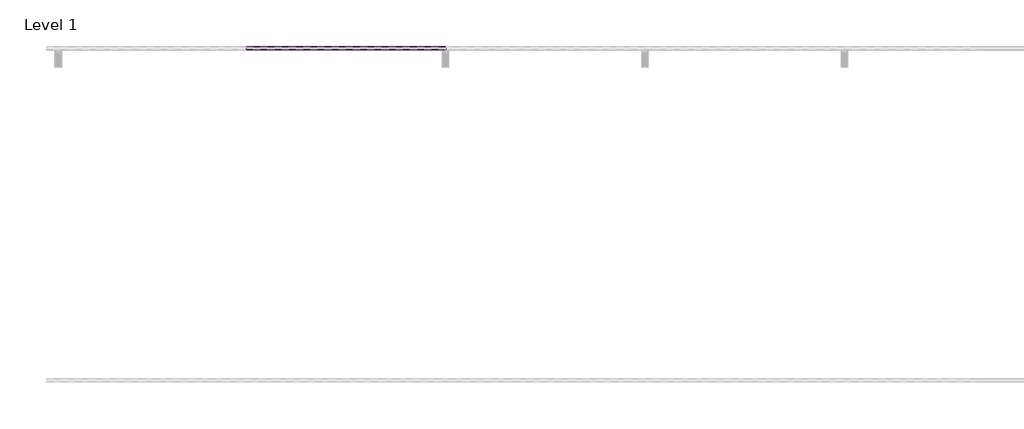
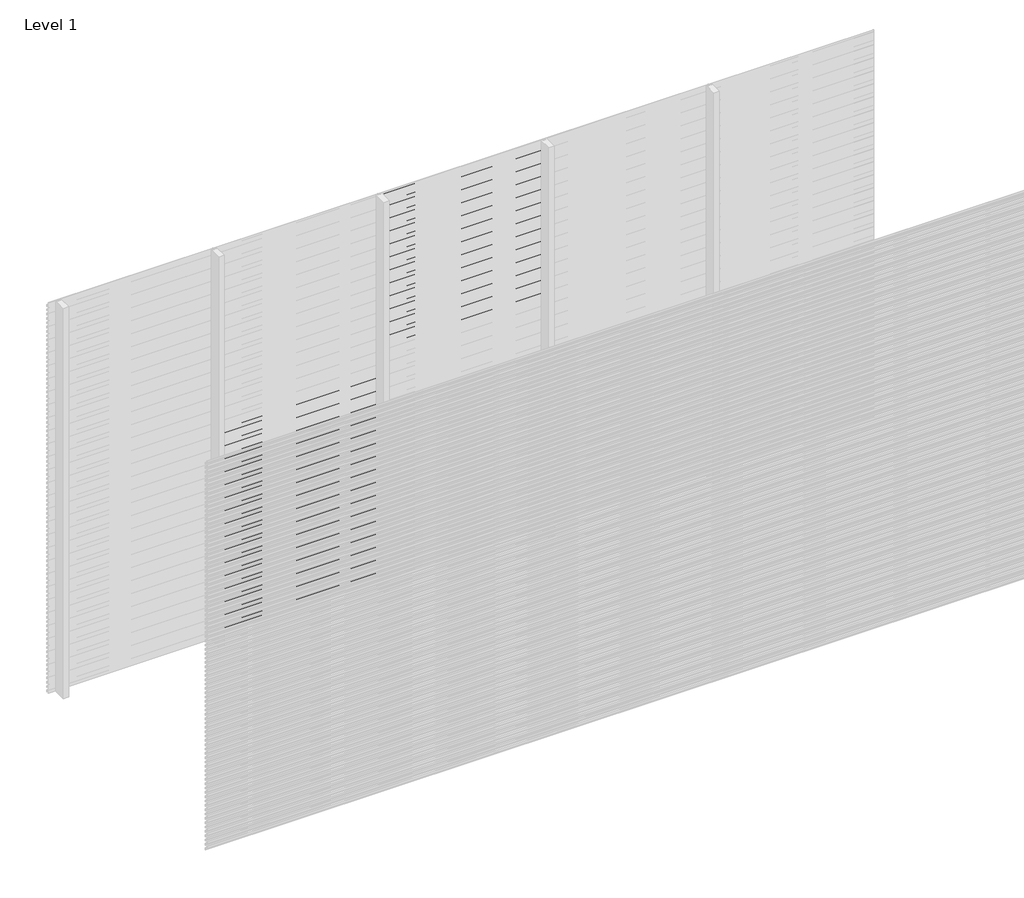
# One storey, part 37 of 507: 84 proxies.
"""IFC4 building model written with IfcOpenShell, lengths in millimetres."""

from ifc_helpers import new_model, si_unit, frame, origin, place, context, project, spatial, polyline, outline, extrude, element, save

model = new_model("IFC4")

# Units and contexts
model_context = context("Model", 3, world=origin())
ifc_project = project(units=[si_unit("LENGTHUNIT", "METRE", prefix="MILLI")], contexts=[model_context])

# Site, building, storey
site = spatial("IfcSite", under=ifc_project)
building = spatial("IfcBuilding", under=site)
storey = spatial("IfcBuildingStorey", under=building, Name="Level 1", Elevation=0.0)

# Proxies
placement = place(None, origin())
element("IfcBuildingElementProxy", 1, Name="Wall Sweeps", at=placement, inside=storey, context=model_context, shape_type="SweptSolid", body=[
    extrude(outline(polyline([(29003.4540136, 1574.4), (29003.4540136, 1560.9), (29002.2040136, 1561.6216933), (29002.2040136, 1573.6782281), (28983.0540136, 1584.7345698), (28983.0540136, 1598.4), (28984.3040136, 1598.4), (28984.3040136, 1585.4562577), (29003.4540136, 1574.4)])), frame((46166.6208099, 0.0, 0.0), z_axis=(1.0, 0.0, 0.0), x_axis=(0.0, 1.0, 0.0)), (0.0, 0.0, 1.0), 1199.9999999),
])
element("IfcBuildingElementProxy", 2, Name="Wall Sweeps", at=placement, inside=storey, context=model_context, shape_type="SweptSolid", body=[
    extrude(outline(polyline([(29003.4540136, 1541.1), (29003.4540136, 1527.6), (29002.2040136, 1528.3216933), (29002.2040136, 1540.3782281), (28983.0540136, 1551.4345698), (28983.0540136, 1565.1), (28984.3040136, 1565.1), (28984.3040136, 1552.1562577), (29003.4540136, 1541.1)])), frame((46166.6208099, 0.0, 0.0), z_axis=(1.0, 0.0, 0.0), x_axis=(0.0, 1.0, 0.0)), (0.0, 0.0, 1.0), 1199.9999999),
])
element("IfcBuildingElementProxy", 3, Name="Wall Sweeps", at=placement, inside=storey, context=model_context, shape_type="SweptSolid", body=[
    extrude(outline(polyline([(29003.4540136, 1507.8), (29003.4540136, 1494.3), (29002.2040136, 1495.0216933), (29002.2040136, 1507.0782281), (28983.0540136, 1518.1345698), (28983.0540136, 1531.8), (28984.3040136, 1531.8), (28984.3040136, 1518.8562577), (29003.4540136, 1507.8)])), frame((46166.6208099, 0.0, 0.0), z_axis=(1.0, 0.0, 0.0), x_axis=(0.0, 1.0, 0.0)), (0.0, 0.0, 1.0), 1199.9999999),
])
element("IfcBuildingElementProxy", 4, Name="Wall Sweeps", at=placement, inside=storey, context=model_context, shape_type="SweptSolid", body=[
    extrude(outline(polyline([(29003.4540136, 1474.5), (29003.4540136, 1461.0), (29002.2040136, 1461.7216933), (29002.2040136, 1473.7782281), (28983.0540136, 1484.8345698), (28983.0540136, 1498.5), (28984.3040136, 1498.5), (28984.3040136, 1485.5562577), (29003.4540136, 1474.5)])), frame((46166.6208099, 0.0, 0.0), z_axis=(1.0, 0.0, 0.0), x_axis=(0.0, 1.0, 0.0)), (0.0, 0.0, 1.0), 1199.9999999),
])
element("IfcBuildingElementProxy", 5, Name="Wall Sweeps", at=placement, inside=storey, context=model_context, shape_type="SweptSolid", body=[
    extrude(outline(polyline([(29003.4540136, 1441.2), (29003.4540136, 1427.7), (29002.2040136, 1428.4216933), (29002.2040136, 1440.4782281), (28983.0540136, 1451.5345698), (28983.0540136, 1465.2), (28984.3040136, 1465.2), (28984.3040136, 1452.2562577), (29003.4540136, 1441.2)])), frame((46166.6208099, 0.0, 0.0), z_axis=(1.0, 0.0, 0.0), x_axis=(0.0, 1.0, 0.0)), (0.0, 0.0, 1.0), 1199.9999999),
])
element("IfcBuildingElementProxy", 6, Name="Wall Sweeps", at=placement, inside=storey, context=model_context, shape_type="SweptSolid", body=[
    extrude(outline(polyline([(29003.4540136, 1407.9), (29003.4540136, 1394.4), (29002.2040136, 1395.1216933), (29002.2040136, 1407.1782281), (28983.0540136, 1418.2345698), (28983.0540136, 1431.9), (28984.3040136, 1431.9), (28984.3040136, 1418.9562577), (29003.4540136, 1407.9)])), frame((46166.6208099, 0.0, 0.0), z_axis=(1.0, 0.0, 0.0), x_axis=(0.0, 1.0, 0.0)), (0.0, 0.0, 1.0), 1199.9999999),
])
element("IfcBuildingElementProxy", 7, Name="Wall Sweeps", at=placement, inside=storey, context=model_context, shape_type="SweptSolid", body=[
    extrude(outline(polyline([(29003.4540136, 1374.6), (29003.4540136, 1361.1), (29002.2040136, 1361.8216933), (29002.2040136, 1373.8782281), (28983.0540136, 1384.9345698), (28983.0540136, 1398.6), (28984.3040136, 1398.6), (28984.3040136, 1385.6562577), (29003.4540136, 1374.6)])), frame((46166.6208099, 0.0, 0.0), z_axis=(1.0, 0.0, 0.0), x_axis=(0.0, 1.0, 0.0)), (0.0, 0.0, 1.0), 1199.9999999),
])
element("IfcBuildingElementProxy", 8, Name="Wall Sweeps", at=placement, inside=storey, context=model_context, shape_type="SweptSolid", body=[
    extrude(outline(polyline([(29003.4540136, 1341.3), (29003.4540136, 1327.8), (29002.2040136, 1328.5216933), (29002.2040136, 1340.5782281), (28983.0540136, 1351.6345698), (28983.0540136, 1365.3), (28984.3040136, 1365.3), (28984.3040136, 1352.3562577), (29003.4540136, 1341.3)])), frame((46166.6208099, 0.0, 0.0), z_axis=(1.0, 0.0, 0.0), x_axis=(0.0, 1.0, 0.0)), (0.0, 0.0, 1.0), 1199.9999999),
])
element("IfcBuildingElementProxy", 9, Name="Wall Sweeps", at=placement, inside=storey, context=model_context, shape_type="SweptSolid", body=[
    extrude(outline(polyline([(29003.4540136, 1308.0), (29003.4540136, 1294.5), (29002.2040136, 1295.2216933), (29002.2040136, 1307.2782281), (28983.0540136, 1318.3345698), (28983.0540136, 1332.0), (28984.3040136, 1332.0), (28984.3040136, 1319.0562577), (29003.4540136, 1308.0)])), frame((46166.6208099, 0.0, 0.0), z_axis=(1.0, 0.0, 0.0), x_axis=(0.0, 1.0, 0.0)), (0.0, 0.0, 1.0), 1199.9999999),
])
element("IfcBuildingElementProxy", 10, Name="Wall Sweeps", at=placement, inside=storey, context=model_context, shape_type="SweptSolid", body=[
    extrude(outline(polyline([(29003.4540136, 1274.7), (29003.4540136, 1261.2), (29002.2040136, 1261.9216933), (29002.2040136, 1273.9782281), (28983.0540136, 1285.0345698), (28983.0540136, 1298.7), (28984.3040136, 1298.7), (28984.3040136, 1285.7562577), (29003.4540136, 1274.7)])), frame((46166.6208099, 0.0, 0.0), z_axis=(1.0, 0.0, 0.0), x_axis=(0.0, 1.0, 0.0)), (0.0, 0.0, 1.0), 1199.9999999),
])
element("IfcBuildingElementProxy", 11, Name="Wall Sweeps", at=placement, inside=storey, context=model_context, shape_type="SweptSolid", body=[
    extrude(outline(polyline([(29003.4540136, 1241.4), (29003.4540136, 1227.9), (29002.2040136, 1228.6216933), (29002.2040136, 1240.6782281), (28983.0540136, 1251.7345698), (28983.0540136, 1265.4), (28984.3040136, 1265.4), (28984.3040136, 1252.4562577), (29003.4540136, 1241.4)])), frame((46166.6208099, 0.0, 0.0), z_axis=(1.0, 0.0, 0.0), x_axis=(0.0, 1.0, 0.0)), (0.0, 0.0, 1.0), 1199.9999999),
])
element("IfcBuildingElementProxy", 12, Name="Wall Sweeps", at=placement, inside=storey, context=model_context, shape_type="SweptSolid", body=[
    extrude(outline(polyline([(29003.4540136, 1208.1), (29003.4540136, 1194.6), (29002.2040136, 1195.3216933), (29002.2040136, 1207.3782281), (28983.0540136, 1218.4345698), (28983.0540136, 1232.1), (28984.3040136, 1232.1), (28984.3040136, 1219.1562577), (29003.4540136, 1208.1)])), frame((46166.6208099, 0.0, 0.0), z_axis=(1.0, 0.0, 0.0), x_axis=(0.0, 1.0, 0.0)), (0.0, 0.0, 1.0), 1199.9999999),
])
element("IfcBuildingElementProxy", 13, Name="Wall Sweeps", at=placement, inside=storey, context=model_context, shape_type="SweptSolid", body=[
    extrude(outline(polyline([(29003.4540136, 1174.8), (29003.4540136, 1161.3), (29002.2040136, 1162.0216933), (29002.2040136, 1174.0782281), (28983.0540136, 1185.1345698), (28983.0540136, 1198.8), (28984.3040136, 1198.8), (28984.3040136, 1185.8562577), (29003.4540136, 1174.8)])), frame((46166.6208099, 0.0, 0.0), z_axis=(1.0, 0.0, 0.0), x_axis=(0.0, 1.0, 0.0)), (0.0, 0.0, 1.0), 1199.9999999),
])
element("IfcBuildingElementProxy", 14, Name="Wall Sweeps", at=placement, inside=storey, context=model_context, shape_type="SweptSolid", body=[
    extrude(outline(polyline([(29003.4540136, 1141.5), (29003.4540136, 1128.0), (29002.2040136, 1128.7216933), (29002.2040136, 1140.7782281), (28983.0540136, 1151.8345698), (28983.0540136, 1165.5), (28984.3040136, 1165.5), (28984.3040136, 1152.5562577), (29003.4540136, 1141.5)])), frame((46166.6208099, 0.0, 0.0), z_axis=(1.0, 0.0, 0.0), x_axis=(0.0, 1.0, 0.0)), (0.0, 0.0, 1.0), 1199.9999999),
])
element("IfcBuildingElementProxy", 15, Name="Wall Sweeps", at=placement, inside=storey, context=model_context, shape_type="SweptSolid", body=[
    extrude(outline(polyline([(29003.4540136, 1108.2), (29003.4540136, 1094.7), (29002.2040136, 1095.4216933), (29002.2040136, 1107.4782281), (28983.0540136, 1118.5345698), (28983.0540136, 1132.2), (28984.3040136, 1132.2), (28984.3040136, 1119.2562577), (29003.4540136, 1108.2)])), frame((46166.6208099, 0.0, 0.0), z_axis=(1.0, 0.0, 0.0), x_axis=(0.0, 1.0, 0.0)), (0.0, 0.0, 1.0), 1199.9999999),
])
element("IfcBuildingElementProxy", 16, Name="Wall Sweeps", at=placement, inside=storey, context=model_context, shape_type="SweptSolid", body=[
    extrude(outline(polyline([(29003.4540136, 1074.9), (29003.4540136, 1061.4), (29002.2040136, 1062.1216933), (29002.2040136, 1074.1782281), (28983.0540136, 1085.2345698), (28983.0540136, 1098.9), (28984.3040136, 1098.9), (28984.3040136, 1085.9562577), (29003.4540136, 1074.9)])), frame((46166.6208099, 0.0, 0.0), z_axis=(1.0, 0.0, 0.0), x_axis=(0.0, 1.0, 0.0)), (0.0, 0.0, 1.0), 1199.9999999),
])
element("IfcBuildingElementProxy", 17, Name="Wall Sweeps", at=placement, inside=storey, context=model_context, shape_type="SweptSolid", body=[
    extrude(outline(polyline([(29003.4540136, 1041.6), (29003.4540136, 1028.1), (29002.2040136, 1028.8216933), (29002.2040136, 1040.8782281), (28983.0540136, 1051.9345698), (28983.0540136, 1065.6), (28984.3040136, 1065.6), (28984.3040136, 1052.6562577), (29003.4540136, 1041.6)])), frame((46166.6208099, 0.0, 0.0), z_axis=(1.0, 0.0, 0.0), x_axis=(0.0, 1.0, 0.0)), (0.0, 0.0, 1.0), 1199.9999999),
])
element("IfcBuildingElementProxy", 18, Name="Wall Sweeps", at=placement, inside=storey, context=model_context, shape_type="SweptSolid", body=[
    extrude(outline(polyline([(29003.4540136, 1008.3), (29003.4540136, 994.8), (29002.2040136, 995.5216933), (29002.2040136, 1007.5782281), (28983.0540136, 1018.6345698), (28983.0540136, 1032.3), (28984.3040136, 1032.3), (28984.3040136, 1019.3562577), (29003.4540136, 1008.3)])), frame((46166.6208099, 0.0, 0.0), z_axis=(1.0, 0.0, 0.0), x_axis=(0.0, 1.0, 0.0)), (0.0, 0.0, 1.0), 1199.9999999),
])
element("IfcBuildingElementProxy", 19, Name="Wall Sweeps", at=placement, inside=storey, context=model_context, shape_type="SweptSolid", body=[
    extrude(outline(polyline([(29003.4540136, 975.0), (29003.4540136, 961.5), (29002.2040136, 962.2216933), (29002.2040136, 974.2782281), (28983.0540136, 985.3345698), (28983.0540136, 999.0), (28984.3040136, 999.0), (28984.3040136, 986.0562577), (29003.4540136, 975.0)])), frame((46166.6208099, 0.0, 0.0), z_axis=(1.0, 0.0, 0.0), x_axis=(0.0, 1.0, 0.0)), (0.0, 0.0, 1.0), 1199.9999999),
])
element("IfcBuildingElementProxy", 20, Name="Wall Sweeps", at=placement, inside=storey, context=model_context, shape_type="SweptSolid", body=[
    extrude(outline(polyline([(29003.4540136, 941.7), (29003.4540136, 928.2), (29002.2040136, 928.9216933), (29002.2040136, 940.9782281), (28983.0540136, 952.0345698), (28983.0540136, 965.7), (28984.3040136, 965.7), (28984.3040136, 952.7562577), (29003.4540136, 941.7)])), frame((46166.6208099, 0.0, 0.0), z_axis=(1.0, 0.0, 0.0), x_axis=(0.0, 1.0, 0.0)), (0.0, 0.0, 1.0), 1199.9999999),
])
element("IfcBuildingElementProxy", 21, Name="Wall Sweeps", at=placement, inside=storey, context=model_context, shape_type="SweptSolid", body=[
    extrude(outline(polyline([(29003.4540136, 908.4), (29003.4540136, 894.9), (29002.2040136, 895.6216933), (29002.2040136, 907.6782281), (28983.0540136, 918.7345698), (28983.0540136, 932.4), (28984.3040136, 932.4), (28984.3040136, 919.4562577), (29003.4540136, 908.4)])), frame((46166.6208099, 0.0, 0.0), z_axis=(1.0, 0.0, 0.0), x_axis=(0.0, 1.0, 0.0)), (0.0, 0.0, 1.0), 1199.9999999),
])
element("IfcBuildingElementProxy", 22, Name="Wall Sweeps", at=placement, inside=storey, context=model_context, shape_type="SweptSolid", body=[
    extrude(outline(polyline([(29003.4540136, 875.1), (29003.4540136, 861.6), (29002.2040136, 862.3216933), (29002.2040136, 874.3782281), (28983.0540136, 885.4345698), (28983.0540136, 899.1), (28984.3040136, 899.1), (28984.3040136, 886.1562577), (29003.4540136, 875.1)])), frame((46166.6208099, 0.0, 0.0), z_axis=(1.0, 0.0, 0.0), x_axis=(0.0, 1.0, 0.0)), (0.0, 0.0, 1.0), 1199.9999999),
])
element("IfcBuildingElementProxy", 23, Name="Wall Sweeps", at=placement, inside=storey, context=model_context, shape_type="SweptSolid", body=[
    extrude(outline(polyline([(29003.4540136, 841.8), (29003.4540136, 828.3), (29002.2040136, 829.0216933), (29002.2040136, 841.0782281), (28983.0540136, 852.1345698), (28983.0540136, 865.8), (28984.3040136, 865.8), (28984.3040136, 852.8562577), (29003.4540136, 841.8)])), frame((46166.6208099, 0.0, 0.0), z_axis=(1.0, 0.0, 0.0), x_axis=(0.0, 1.0, 0.0)), (0.0, 0.0, 1.0), 1199.9999999),
])
element("IfcBuildingElementProxy", 24, Name="Wall Sweeps", at=placement, inside=storey, context=model_context, shape_type="SweptSolid", body=[
    extrude(outline(polyline([(29003.4540136, 808.5), (29003.4540136, 795.0), (29002.2040136, 795.7216933), (29002.2040136, 807.7782281), (28983.0540136, 818.8345698), (28983.0540136, 832.5), (28984.3040136, 832.5), (28984.3040136, 819.5562577), (29003.4540136, 808.5)])), frame((46166.6208099, 0.0, 0.0), z_axis=(1.0, 0.0, 0.0), x_axis=(0.0, 1.0, 0.0)), (0.0, 0.0, 1.0), 1199.9999999),
])
element("IfcBuildingElementProxy", 25, Name="Wall Sweeps", at=placement, inside=storey, context=model_context, shape_type="SweptSolid", body=[
    extrude(outline(polyline([(29003.4540136, 775.2), (29003.4540136, 761.7), (29002.2040136, 762.4216933), (29002.2040136, 774.4782281), (28983.0540136, 785.5345698), (28983.0540136, 799.2), (28984.3040136, 799.2), (28984.3040136, 786.2562577), (29003.4540136, 775.2)])), frame((46166.6208099, 0.0, 0.0), z_axis=(1.0, 0.0, 0.0), x_axis=(0.0, 1.0, 0.0)), (0.0, 0.0, 1.0), 1199.9999999),
])
element("IfcBuildingElementProxy", 26, Name="Wall Sweeps", at=placement, inside=storey, context=model_context, shape_type="SweptSolid", body=[
    extrude(outline(polyline([(29003.4540136, 741.9), (29003.4540136, 728.4), (29002.2040136, 729.1216933), (29002.2040136, 741.1782281), (28983.0540136, 752.2345698), (28983.0540136, 765.9), (28984.3040136, 765.9), (28984.3040136, 752.9562577), (29003.4540136, 741.9)])), frame((46166.6208099, 0.0, 0.0), z_axis=(1.0, 0.0, 0.0), x_axis=(0.0, 1.0, 0.0)), (0.0, 0.0, 1.0), 1199.9999999),
])
element("IfcBuildingElementProxy", 27, Name="Wall Sweeps", at=placement, inside=storey, context=model_context, shape_type="SweptSolid", body=[
    extrude(outline(polyline([(29003.4540136, 708.6), (29003.4540136, 695.1), (29002.2040136, 695.8216933), (29002.2040136, 707.8782281), (28983.0540136, 718.9345698), (28983.0540136, 732.6), (28984.3040136, 732.6), (28984.3040136, 719.6562577), (29003.4540136, 708.6)])), frame((46166.6208099, 0.0, 0.0), z_axis=(1.0, 0.0, 0.0), x_axis=(0.0, 1.0, 0.0)), (0.0, 0.0, 1.0), 1199.9999999),
])
element("IfcBuildingElementProxy", 28, Name="Wall Sweeps", at=placement, inside=storey, context=model_context, shape_type="SweptSolid", body=[
    extrude(outline(polyline([(29003.4540136, 675.3), (29003.4540136, 661.8), (29002.2040136, 662.5216933), (29002.2040136, 674.5782281), (28983.0540136, 685.6345698), (28983.0540136, 699.3), (28984.3040136, 699.3), (28984.3040136, 686.3562577), (29003.4540136, 675.3)])), frame((46166.6208099, 0.0, 0.0), z_axis=(1.0, 0.0, 0.0), x_axis=(0.0, 1.0, 0.0)), (0.0, 0.0, 1.0), 1199.9999999),
])
element("IfcBuildingElementProxy", 29, Name="Wall Sweeps", at=placement, inside=storey, context=model_context, shape_type="SweptSolid", body=[
    extrude(outline(polyline([(29003.4540136, 642.0), (29003.4540136, 628.5), (29002.2040136, 629.2216933), (29002.2040136, 641.2782281), (28983.0540136, 652.3345698), (28983.0540136, 666.0), (28984.3040136, 666.0), (28984.3040136, 653.0562577), (29003.4540136, 642.0)])), frame((46166.6208099, 0.0, 0.0), z_axis=(1.0, 0.0, 0.0), x_axis=(0.0, 1.0, 0.0)), (0.0, 0.0, 1.0), 1199.9999999),
])
element("IfcBuildingElementProxy", 30, Name="Wall Sweeps", at=placement, inside=storey, context=model_context, shape_type="SweptSolid", body=[
    extrude(outline(polyline([(29003.4540136, 608.7), (29003.4540136, 595.2), (29002.2040136, 595.9216933), (29002.2040136, 607.9782281), (28983.0540136, 619.0345698), (28983.0540136, 632.7), (28984.3040136, 632.7), (28984.3040136, 619.7562577), (29003.4540136, 608.7)])), frame((46166.6208099, 0.0, 0.0), z_axis=(1.0, 0.0, 0.0), x_axis=(0.0, 1.0, 0.0)), (0.0, 0.0, 1.0), 1199.9999999),
])
element("IfcBuildingElementProxy", 31, Name="Wall Sweeps", at=placement, inside=storey, context=model_context, shape_type="SweptSolid", body=[
    extrude(outline(polyline([(29003.4540136, 575.4), (29003.4540136, 561.9), (29002.2040136, 562.6216933), (29002.2040136, 574.6782281), (28983.0540136, 585.7345698), (28983.0540136, 599.4), (28984.3040136, 599.4), (28984.3040136, 586.4562577), (29003.4540136, 575.4)])), frame((46166.6208099, 0.0, 0.0), z_axis=(1.0, 0.0, 0.0), x_axis=(0.0, 1.0, 0.0)), (0.0, 0.0, 1.0), 1199.9999999),
])
element("IfcBuildingElementProxy", 32, Name="Wall Sweeps", at=placement, inside=storey, context=model_context, shape_type="SweptSolid", body=[
    extrude(outline(polyline([(29003.4540136, 542.1), (29003.4540136, 528.6), (29002.2040136, 529.3216933), (29002.2040136, 541.3782281), (28983.0540136, 552.4345698), (28983.0540136, 566.1), (28984.3040136, 566.1), (28984.3040136, 553.1562577), (29003.4540136, 542.1)])), frame((46166.6208099, 0.0, 0.0), z_axis=(1.0, 0.0, 0.0), x_axis=(0.0, 1.0, 0.0)), (0.0, 0.0, 1.0), 1199.9999999),
])
element("IfcBuildingElementProxy", 33, Name="Wall Sweeps", at=placement, inside=storey, context=model_context, shape_type="SweptSolid", body=[
    extrude(outline(polyline([(29003.4540136, 508.8), (29003.4540136, 495.3), (29002.2040136, 496.0216933), (29002.2040136, 508.0782281), (28983.0540136, 519.1345698), (28983.0540136, 532.8), (28984.3040136, 532.8), (28984.3040136, 519.8562577), (29003.4540136, 508.8)])), frame((46166.6208099, 0.0, 0.0), z_axis=(1.0, 0.0, 0.0), x_axis=(0.0, 1.0, 0.0)), (0.0, 0.0, 1.0), 1199.9999999),
])
element("IfcBuildingElementProxy", 34, Name="Wall Sweeps", at=placement, inside=storey, context=model_context, shape_type="SweptSolid", body=[
    extrude(outline(polyline([(29003.4540136, 475.5), (29003.4540136, 462.0), (29002.2040136, 462.7216933), (29002.2040136, 474.7782281), (28983.0540136, 485.8345698), (28983.0540136, 499.5), (28984.3040136, 499.5), (28984.3040136, 486.5562577), (29003.4540136, 475.5)])), frame((46166.6208099, 0.0, 0.0), z_axis=(1.0, 0.0, 0.0), x_axis=(0.0, 1.0, 0.0)), (0.0, 0.0, 1.0), 1199.9999999),
])
element("IfcBuildingElementProxy", 35, Name="Wall Sweeps", at=placement, inside=storey, context=model_context, shape_type="SweptSolid", body=[
    extrude(outline(polyline([(29003.4540136, 442.2), (29003.4540136, 428.7), (29002.2040136, 429.4216933), (29002.2040136, 441.4782281), (28983.0540136, 452.5345698), (28983.0540136, 466.2), (28984.3040136, 466.2), (28984.3040136, 453.2562577), (29003.4540136, 442.2)])), frame((46166.6208099, 0.0, 0.0), z_axis=(1.0, 0.0, 0.0), x_axis=(0.0, 1.0, 0.0)), (0.0, 0.0, 1.0), 1199.9999999),
])
element("IfcBuildingElementProxy", 36, Name="Wall Sweeps", at=placement, inside=storey, context=model_context, shape_type="SweptSolid", body=[
    extrude(outline(polyline([(29003.4540136, 408.9), (29003.4540136, 395.4), (29002.2040136, 396.1216933), (29002.2040136, 408.1782281), (28983.0540136, 419.2345698), (28983.0540136, 432.9), (28984.3040136, 432.9), (28984.3040136, 419.9562577), (29003.4540136, 408.9)])), frame((46166.6208099, 0.0, 0.0), z_axis=(1.0, 0.0, 0.0), x_axis=(0.0, 1.0, 0.0)), (0.0, 0.0, 1.0), 1199.9999999),
])
element("IfcBuildingElementProxy", 37, Name="Wall Sweeps", at=placement, inside=storey, context=model_context, shape_type="SweptSolid", body=[
    extrude(outline(polyline([(29003.4540136, 375.6), (29003.4540136, 362.1), (29002.2040136, 362.8216933), (29002.2040136, 374.8782281), (28983.0540136, 385.9345698), (28983.0540136, 399.6), (28984.3040136, 399.6), (28984.3040136, 386.6562577), (29003.4540136, 375.6)])), frame((46166.6208099, 0.0, 0.0), z_axis=(1.0, 0.0, 0.0), x_axis=(0.0, 1.0, 0.0)), (0.0, 0.0, 1.0), 1199.9999999),
])
element("IfcBuildingElementProxy", 38, Name="Wall Sweeps", at=placement, inside=storey, context=model_context, shape_type="SweptSolid", body=[
    extrude(outline(polyline([(29003.4540136, 342.3), (29003.4540136, 328.8), (29002.2040136, 329.5216933), (29002.2040136, 341.5782281), (28983.0540136, 352.6345698), (28983.0540136, 366.3), (28984.3040136, 366.3), (28984.3040136, 353.3562577), (29003.4540136, 342.3)])), frame((46166.6208099, 0.0, 0.0), z_axis=(1.0, 0.0, 0.0), x_axis=(0.0, 1.0, 0.0)), (0.0, 0.0, 1.0), 1199.9999999),
])
element("IfcBuildingElementProxy", 39, Name="Wall Sweeps", at=placement, inside=storey, context=model_context, shape_type="SweptSolid", body=[
    extrude(outline(polyline([(29003.4540136, 309.0), (29003.4540136, 295.5), (29002.2040136, 296.2216933), (29002.2040136, 308.2782281), (28983.0540136, 319.3345698), (28983.0540136, 333.0), (28984.3040136, 333.0), (28984.3040136, 320.0562577), (29003.4540136, 309.0)])), frame((46166.6208099, 0.0, 0.0), z_axis=(1.0, 0.0, 0.0), x_axis=(0.0, 1.0, 0.0)), (0.0, 0.0, 1.0), 1199.9999999),
])
element("IfcBuildingElementProxy", 40, Name="Wall Sweeps", at=placement, inside=storey, context=model_context, shape_type="SweptSolid", body=[
    extrude(outline(polyline([(29003.4540136, 275.7), (29003.4540136, 262.2), (29002.2040136, 262.9216933), (29002.2040136, 274.9782281), (28983.0540136, 286.0345698), (28983.0540136, 299.7), (28984.3040136, 299.7), (28984.3040136, 286.7562577), (29003.4540136, 275.7)])), frame((46166.6208099, 0.0, 0.0), z_axis=(1.0, 0.0, 0.0), x_axis=(0.0, 1.0, 0.0)), (0.0, 0.0, 1.0), 1199.9999999),
])
element("IfcBuildingElementProxy", 41, Name="Wall Sweeps", at=placement, inside=storey, context=model_context, shape_type="SweptSolid", body=[
    extrude(outline(polyline([(29003.4540136, 242.4), (29003.4540136, 228.9), (29002.2040136, 229.6216933), (29002.2040136, 241.6782281), (28983.0540136, 252.7345698), (28983.0540136, 266.4), (28984.3040136, 266.4), (28984.3040136, 253.4562577), (29003.4540136, 242.4)])), frame((46166.6208099, 0.0, 0.0), z_axis=(1.0, 0.0, 0.0), x_axis=(0.0, 1.0, 0.0)), (0.0, 0.0, 1.0), 1199.9999999),
])
element("IfcBuildingElementProxy", 42, Name="Wall Sweeps", at=placement, inside=storey, context=model_context, shape_type="SweptSolid", body=[
    extrude(outline(polyline([(29003.4540136, 209.1), (29003.4540136, 195.6), (29002.2040136, 196.3216933), (29002.2040136, 208.3782281), (28983.0540136, 219.4345698), (28983.0540136, 233.1), (28984.3040136, 233.1), (28984.3040136, 220.1562577), (29003.4540136, 209.1)])), frame((46166.6208099, 0.0, 0.0), z_axis=(1.0, 0.0, 0.0), x_axis=(0.0, 1.0, 0.0)), (0.0, 0.0, 1.0), 1199.9999999),
])
element("IfcBuildingElementProxy", 43, Name="Wall Sweeps", at=placement, inside=storey, context=model_context, shape_type="SweptSolid", body=[
    extrude(outline(polyline([(29003.4540136, 175.8), (29003.4540136, 162.3), (29002.2040136, 163.0216933), (29002.2040136, 175.0782281), (28983.0540136, 186.1345698), (28983.0540136, 199.8), (28984.3040136, 199.8), (28984.3040136, 186.8562577), (29003.4540136, 175.8)])), frame((46166.6208099, 0.0, 0.0), z_axis=(1.0, 0.0, 0.0), x_axis=(0.0, 1.0, 0.0)), (0.0, 0.0, 1.0), 1199.9999999),
])
element("IfcBuildingElementProxy", 44, Name="Wall Sweeps", at=placement, inside=storey, context=model_context, shape_type="SweptSolid", body=[
    extrude(outline(polyline([(29003.4540136, 142.5), (29003.4540136, 129.0), (29002.2040136, 129.7216933), (29002.2040136, 141.7782281), (28983.0540136, 152.8345698), (28983.0540136, 166.5), (28984.3040136, 166.5), (28984.3040136, 153.5562577), (29003.4540136, 142.5)])), frame((46166.6208099, 0.0, 0.0), z_axis=(1.0, 0.0, 0.0), x_axis=(0.0, 1.0, 0.0)), (0.0, 0.0, 1.0), 1199.9999999),
])
element("IfcBuildingElementProxy", 45, Name="Wall Sweeps", at=placement, inside=storey, context=model_context, shape_type="SweptSolid", body=[
    extrude(outline(polyline([(29003.4540136, 109.2), (29003.4540136, 95.7), (29002.2040136, 96.4216933), (29002.2040136, 108.4782281), (28983.0540136, 119.5345698), (28983.0540136, 133.2), (28984.3040136, 133.2), (28984.3040136, 120.2562577), (29003.4540136, 109.2)])), frame((46166.6208099, 0.0, 0.0), z_axis=(1.0, 0.0, 0.0), x_axis=(0.0, 1.0, 0.0)), (0.0, 0.0, 1.0), 1199.9999999),
])
element("IfcBuildingElementProxy", 46, Name="Wall Sweeps", at=placement, inside=storey, context=model_context, shape_type="SweptSolid", body=[
    extrude(outline(polyline([(29003.4540136, 75.9), (29003.4540136, 62.4), (29002.2040136, 63.1216933), (29002.2040136, 75.1782281), (28983.0540136, 86.2345698), (28983.0540136, 99.9), (28984.3040136, 99.9), (28984.3040136, 86.9562577), (29003.4540136, 75.9)])), frame((46166.6208099, 0.0, 0.0), z_axis=(1.0, 0.0, 0.0), x_axis=(0.0, 1.0, 0.0)), (0.0, 0.0, 1.0), 1199.9999999),
])
element("IfcBuildingElementProxy", 47, Name="Wall Sweeps", at=placement, inside=storey, context=model_context, shape_type="SweptSolid", body=[
    extrude(outline(polyline([(29003.4540136, 42.6), (29003.4540136, 29.1), (29002.2040136, 29.8216933), (29002.2040136, 41.8782281), (28983.0540136, 52.9345698), (28983.0540136, 66.6), (28984.3040136, 66.6), (28984.3040136, 53.6562577), (29003.4540136, 42.6)])), frame((46166.6208099, 0.0, 0.0), z_axis=(1.0, 0.0, 0.0), x_axis=(0.0, 1.0, 0.0)), (0.0, 0.0, 1.0), 1199.9999999),
])
element("IfcBuildingElementProxy", 48, Name="Wall Sweeps", at=placement, inside=storey, context=model_context, shape_type="SweptSolid", body=[
    extrude(outline(polyline([(29003.4540136, 9.3), (29003.4540136, -4.2), (29002.2040136, -3.4783067), (29002.2040136, 8.5782281), (28983.0540136, 19.6345698), (28983.0540136, 33.3), (28984.3040136, 33.3), (28984.3040136, 20.3562577), (29003.4540136, 9.3)])), frame((46166.6208099, 0.0, 0.0), z_axis=(1.0, 0.0, 0.0), x_axis=(0.0, 1.0, 0.0)), (0.0, 0.0, 1.0), 1199.9999999),
])
element("IfcBuildingElementProxy", 49, Name="Wall Sweeps", at=placement, inside=storey, context=model_context, shape_type="SweptSolid", body=[
    extrude(outline(polyline([(29003.4540136, 2973.0), (29003.4540136, 2959.5), (29002.2040136, 2960.2216933), (29002.2040136, 2972.2782281), (28983.0540136, 2983.3345698), (28983.0540136, 2997.0), (28984.3040136, 2997.0), (28984.3040136, 2984.0562577), (29003.4540136, 2973.0)])), frame((47366.6208097, 0.0, 0.0), z_axis=(1.0, 0.0, 0.0), x_axis=(0.0, 1.0, 0.0)), (0.0, 0.0, 1.0), 1199.9999999),
])
element("IfcBuildingElementProxy", 50, Name="Wall Sweeps", at=placement, inside=storey, context=model_context, shape_type="SweptSolid", body=[
    extrude(outline(polyline([(29003.4540136, 2939.7), (29003.4540136, 2926.2), (29002.2040136, 2926.9216933), (29002.2040136, 2938.9782281), (28983.0540136, 2950.0345698), (28983.0540136, 2963.7), (28984.3040136, 2963.7), (28984.3040136, 2950.7562577), (29003.4540136, 2939.7)])), frame((47366.6208097, 0.0, 0.0), z_axis=(1.0, 0.0, 0.0), x_axis=(0.0, 1.0, 0.0)), (0.0, 0.0, 1.0), 1199.9999999),
])
element("IfcBuildingElementProxy", 51, Name="Wall Sweeps", at=placement, inside=storey, context=model_context, shape_type="SweptSolid", body=[
    extrude(outline(polyline([(29003.4540136, 2906.4), (29003.4540136, 2892.9), (29002.2040136, 2893.6216933), (29002.2040136, 2905.6782281), (28983.0540136, 2916.7345698), (28983.0540136, 2930.4), (28984.3040136, 2930.4), (28984.3040136, 2917.4562577), (29003.4540136, 2906.4)])), frame((47366.6208097, 0.0, 0.0), z_axis=(1.0, 0.0, 0.0), x_axis=(0.0, 1.0, 0.0)), (0.0, 0.0, 1.0), 1199.9999999),
])
element("IfcBuildingElementProxy", 52, Name="Wall Sweeps", at=placement, inside=storey, context=model_context, shape_type="SweptSolid", body=[
    extrude(outline(polyline([(29003.4540136, 2873.1), (29003.4540136, 2859.6), (29002.2040136, 2860.3216933), (29002.2040136, 2872.3782281), (28983.0540136, 2883.4345698), (28983.0540136, 2897.1), (28984.3040136, 2897.1), (28984.3040136, 2884.1562577), (29003.4540136, 2873.1)])), frame((47366.6208097, 0.0, 0.0), z_axis=(1.0, 0.0, 0.0), x_axis=(0.0, 1.0, 0.0)), (0.0, 0.0, 1.0), 1199.9999999),
])
element("IfcBuildingElementProxy", 53, Name="Wall Sweeps", at=placement, inside=storey, context=model_context, shape_type="SweptSolid", body=[
    extrude(outline(polyline([(29003.4540136, 2839.8), (29003.4540136, 2826.3), (29002.2040136, 2827.0216933), (29002.2040136, 2839.0782281), (28983.0540136, 2850.1345698), (28983.0540136, 2863.8), (28984.3040136, 2863.8), (28984.3040136, 2850.8562577), (29003.4540136, 2839.8)])), frame((47366.6208097, 0.0, 0.0), z_axis=(1.0, 0.0, 0.0), x_axis=(0.0, 1.0, 0.0)), (0.0, 0.0, 1.0), 1199.9999999),
])
element("IfcBuildingElementProxy", 54, Name="Wall Sweeps", at=placement, inside=storey, context=model_context, shape_type="SweptSolid", body=[
    extrude(outline(polyline([(29003.4540136, 2806.5), (29003.4540136, 2793.0), (29002.2040136, 2793.7216933), (29002.2040136, 2805.7782281), (28983.0540136, 2816.8345698), (28983.0540136, 2830.5), (28984.3040136, 2830.5), (28984.3040136, 2817.5562577), (29003.4540136, 2806.5)])), frame((47366.6208097, 0.0, 0.0), z_axis=(1.0, 0.0, 0.0), x_axis=(0.0, 1.0, 0.0)), (0.0, 0.0, 1.0), 1199.9999999),
])
element("IfcBuildingElementProxy", 55, Name="Wall Sweeps", at=placement, inside=storey, context=model_context, shape_type="SweptSolid", body=[
    extrude(outline(polyline([(29003.4540136, 2773.2), (29003.4540136, 2759.7), (29002.2040136, 2760.4216933), (29002.2040136, 2772.4782281), (28983.0540136, 2783.5345698), (28983.0540136, 2797.2), (28984.3040136, 2797.2), (28984.3040136, 2784.2562577), (29003.4540136, 2773.2)])), frame((47366.6208097, 0.0, 0.0), z_axis=(1.0, 0.0, 0.0), x_axis=(0.0, 1.0, 0.0)), (0.0, 0.0, 1.0), 1199.9999999),
])
element("IfcBuildingElementProxy", 56, Name="Wall Sweeps", at=placement, inside=storey, context=model_context, shape_type="SweptSolid", body=[
    extrude(outline(polyline([(29003.4540136, 2739.9), (29003.4540136, 2726.4), (29002.2040136, 2727.1216933), (29002.2040136, 2739.1782281), (28983.0540136, 2750.2345698), (28983.0540136, 2763.9), (28984.3040136, 2763.9), (28984.3040136, 2750.9562577), (29003.4540136, 2739.9)])), frame((47366.6208097, 0.0, 0.0), z_axis=(1.0, 0.0, 0.0), x_axis=(0.0, 1.0, 0.0)), (0.0, 0.0, 1.0), 1199.9999999),
])
element("IfcBuildingElementProxy", 57, Name="Wall Sweeps", at=placement, inside=storey, context=model_context, shape_type="SweptSolid", body=[
    extrude(outline(polyline([(29003.4540136, 2706.6), (29003.4540136, 2693.1), (29002.2040136, 2693.8216933), (29002.2040136, 2705.8782281), (28983.0540136, 2716.9345698), (28983.0540136, 2730.6), (28984.3040136, 2730.6), (28984.3040136, 2717.6562577), (29003.4540136, 2706.6)])), frame((47366.6208097, 0.0, 0.0), z_axis=(1.0, 0.0, 0.0), x_axis=(0.0, 1.0, 0.0)), (0.0, 0.0, 1.0), 1199.9999999),
])
element("IfcBuildingElementProxy", 58, Name="Wall Sweeps", at=placement, inside=storey, context=model_context, shape_type="SweptSolid", body=[
    extrude(outline(polyline([(29003.4540136, 2673.3), (29003.4540136, 2659.8), (29002.2040136, 2660.5216933), (29002.2040136, 2672.5782281), (28983.0540136, 2683.6345698), (28983.0540136, 2697.3), (28984.3040136, 2697.3), (28984.3040136, 2684.3562577), (29003.4540136, 2673.3)])), frame((47366.6208097, 0.0, 0.0), z_axis=(1.0, 0.0, 0.0), x_axis=(0.0, 1.0, 0.0)), (0.0, 0.0, 1.0), 1199.9999999),
])
element("IfcBuildingElementProxy", 59, Name="Wall Sweeps", at=placement, inside=storey, context=model_context, shape_type="SweptSolid", body=[
    extrude(outline(polyline([(29003.4540136, 2640.0), (29003.4540136, 2626.5), (29002.2040136, 2627.2216933), (29002.2040136, 2639.2782281), (28983.0540136, 2650.3345698), (28983.0540136, 2664.0), (28984.3040136, 2664.0), (28984.3040136, 2651.0562577), (29003.4540136, 2640.0)])), frame((47366.6208097, 0.0, 0.0), z_axis=(1.0, 0.0, 0.0), x_axis=(0.0, 1.0, 0.0)), (0.0, 0.0, 1.0), 1199.9999999),
])
element("IfcBuildingElementProxy", 60, Name="Wall Sweeps", at=placement, inside=storey, context=model_context, shape_type="SweptSolid", body=[
    extrude(outline(polyline([(29003.4540136, 2606.7), (29003.4540136, 2593.2), (29002.2040136, 2593.9216933), (29002.2040136, 2605.9782281), (28983.0540136, 2617.0345698), (28983.0540136, 2630.7), (28984.3040136, 2630.7), (28984.3040136, 2617.7562577), (29003.4540136, 2606.7)])), frame((47366.6208097, 0.0, 0.0), z_axis=(1.0, 0.0, 0.0), x_axis=(0.0, 1.0, 0.0)), (0.0, 0.0, 1.0), 1199.9999999),
])
element("IfcBuildingElementProxy", 61, Name="Wall Sweeps", at=placement, inside=storey, context=model_context, shape_type="SweptSolid", body=[
    extrude(outline(polyline([(29003.4540136, 2573.4), (29003.4540136, 2559.9), (29002.2040136, 2560.6216933), (29002.2040136, 2572.6782281), (28983.0540136, 2583.7345698), (28983.0540136, 2597.4), (28984.3040136, 2597.4), (28984.3040136, 2584.4562577), (29003.4540136, 2573.4)])), frame((47366.6208097, 0.0, 0.0), z_axis=(1.0, 0.0, 0.0), x_axis=(0.0, 1.0, 0.0)), (0.0, 0.0, 1.0), 1199.9999999),
])
element("IfcBuildingElementProxy", 62, Name="Wall Sweeps", at=placement, inside=storey, context=model_context, shape_type="SweptSolid", body=[
    extrude(outline(polyline([(29003.4540136, 2540.1), (29003.4540136, 2526.6), (29002.2040136, 2527.3216933), (29002.2040136, 2539.3782281), (28983.0540136, 2550.4345698), (28983.0540136, 2564.1), (28984.3040136, 2564.1), (28984.3040136, 2551.1562577), (29003.4540136, 2540.1)])), frame((47366.6208097, 0.0, 0.0), z_axis=(1.0, 0.0, 0.0), x_axis=(0.0, 1.0, 0.0)), (0.0, 0.0, 1.0), 1199.9999999),
])
element("IfcBuildingElementProxy", 63, Name="Wall Sweeps", at=placement, inside=storey, context=model_context, shape_type="SweptSolid", body=[
    extrude(outline(polyline([(29003.4540136, 2506.8), (29003.4540136, 2493.3), (29002.2040136, 2494.0216933), (29002.2040136, 2506.0782281), (28983.0540136, 2517.1345698), (28983.0540136, 2530.8), (28984.3040136, 2530.8), (28984.3040136, 2517.8562577), (29003.4540136, 2506.8)])), frame((47366.6208097, 0.0, 0.0), z_axis=(1.0, 0.0, 0.0), x_axis=(0.0, 1.0, 0.0)), (0.0, 0.0, 1.0), 1199.9999999),
])
element("IfcBuildingElementProxy", 64, Name="Wall Sweeps", at=placement, inside=storey, context=model_context, shape_type="SweptSolid", body=[
    extrude(outline(polyline([(29003.4540136, 2473.5), (29003.4540136, 2460.0), (29002.2040136, 2460.7216933), (29002.2040136, 2472.7782281), (28983.0540136, 2483.8345698), (28983.0540136, 2497.5), (28984.3040136, 2497.5), (28984.3040136, 2484.5562577), (29003.4540136, 2473.5)])), frame((47366.6208097, 0.0, 0.0), z_axis=(1.0, 0.0, 0.0), x_axis=(0.0, 1.0, 0.0)), (0.0, 0.0, 1.0), 1199.9999999),
])
element("IfcBuildingElementProxy", 65, Name="Wall Sweeps", at=placement, inside=storey, context=model_context, shape_type="SweptSolid", body=[
    extrude(outline(polyline([(29003.4540136, 2440.2), (29003.4540136, 2426.7), (29002.2040136, 2427.4216933), (29002.2040136, 2439.4782281), (28983.0540136, 2450.5345698), (28983.0540136, 2464.2), (28984.3040136, 2464.2), (28984.3040136, 2451.2562577), (29003.4540136, 2440.2)])), frame((47366.6208097, 0.0, 0.0), z_axis=(1.0, 0.0, 0.0), x_axis=(0.0, 1.0, 0.0)), (0.0, 0.0, 1.0), 1199.9999999),
])
element("IfcBuildingElementProxy", 66, Name="Wall Sweeps", at=placement, inside=storey, context=model_context, shape_type="SweptSolid", body=[
    extrude(outline(polyline([(29003.4540136, 2406.9), (29003.4540136, 2393.4), (29002.2040136, 2394.1216933), (29002.2040136, 2406.1782281), (28983.0540136, 2417.2345698), (28983.0540136, 2430.9), (28984.3040136, 2430.9), (28984.3040136, 2417.9562577), (29003.4540136, 2406.9)])), frame((47366.6208097, 0.0, 0.0), z_axis=(1.0, 0.0, 0.0), x_axis=(0.0, 1.0, 0.0)), (0.0, 0.0, 1.0), 1199.9999999),
])
element("IfcBuildingElementProxy", 67, Name="Wall Sweeps", at=placement, inside=storey, context=model_context, shape_type="SweptSolid", body=[
    extrude(outline(polyline([(29003.4540136, 2373.6), (29003.4540136, 2360.1), (29002.2040136, 2360.8216933), (29002.2040136, 2372.8782281), (28983.0540136, 2383.9345698), (28983.0540136, 2397.6), (28984.3040136, 2397.6), (28984.3040136, 2384.6562577), (29003.4540136, 2373.6)])), frame((47366.6208097, 0.0, 0.0), z_axis=(1.0, 0.0, 0.0), x_axis=(0.0, 1.0, 0.0)), (0.0, 0.0, 1.0), 1199.9999999),
])
element("IfcBuildingElementProxy", 68, Name="Wall Sweeps", at=placement, inside=storey, context=model_context, shape_type="SweptSolid", body=[
    extrude(outline(polyline([(29003.4540136, 2340.3), (29003.4540136, 2326.8), (29002.2040136, 2327.5216933), (29002.2040136, 2339.5782281), (28983.0540136, 2350.6345698), (28983.0540136, 2364.3), (28984.3040136, 2364.3), (28984.3040136, 2351.3562577), (29003.4540136, 2340.3)])), frame((47366.6208097, 0.0, 0.0), z_axis=(1.0, 0.0, 0.0), x_axis=(0.0, 1.0, 0.0)), (0.0, 0.0, 1.0), 1199.9999999),
])
element("IfcBuildingElementProxy", 69, Name="Wall Sweeps", at=placement, inside=storey, context=model_context, shape_type="SweptSolid", body=[
    extrude(outline(polyline([(29003.4540136, 2307.0), (29003.4540136, 2293.5), (29002.2040136, 2294.2216933), (29002.2040136, 2306.2782281), (28983.0540136, 2317.3345698), (28983.0540136, 2331.0), (28984.3040136, 2331.0), (28984.3040136, 2318.0562577), (29003.4540136, 2307.0)])), frame((47366.6208097, 0.0, 0.0), z_axis=(1.0, 0.0, 0.0), x_axis=(0.0, 1.0, 0.0)), (0.0, 0.0, 1.0), 1199.9999999),
])
element("IfcBuildingElementProxy", 70, Name="Wall Sweeps", at=placement, inside=storey, context=model_context, shape_type="SweptSolid", body=[
    extrude(outline(polyline([(29003.4540136, 2273.7), (29003.4540136, 2260.2), (29002.2040136, 2260.9216933), (29002.2040136, 2272.9782281), (28983.0540136, 2284.0345698), (28983.0540136, 2297.7), (28984.3040136, 2297.7), (28984.3040136, 2284.7562577), (29003.4540136, 2273.7)])), frame((47366.6208097, 0.0, 0.0), z_axis=(1.0, 0.0, 0.0), x_axis=(0.0, 1.0, 0.0)), (0.0, 0.0, 1.0), 1199.9999999),
])
element("IfcBuildingElementProxy", 71, Name="Wall Sweeps", at=placement, inside=storey, context=model_context, shape_type="SweptSolid", body=[
    extrude(outline(polyline([(29003.4540136, 2240.4), (29003.4540136, 2226.9), (29002.2040136, 2227.6216933), (29002.2040136, 2239.6782281), (28983.0540136, 2250.7345698), (28983.0540136, 2264.4), (28984.3040136, 2264.4), (28984.3040136, 2251.4562577), (29003.4540136, 2240.4)])), frame((47366.6208097, 0.0, 0.0), z_axis=(1.0, 0.0, 0.0), x_axis=(0.0, 1.0, 0.0)), (0.0, 0.0, 1.0), 1199.9999999),
])
element("IfcBuildingElementProxy", 72, Name="Wall Sweeps", at=placement, inside=storey, context=model_context, shape_type="SweptSolid", body=[
    extrude(outline(polyline([(29003.4540136, 2207.1), (29003.4540136, 2193.6), (29002.2040136, 2194.3216933), (29002.2040136, 2206.3782281), (28983.0540136, 2217.4345698), (28983.0540136, 2231.1), (28984.3040136, 2231.1), (28984.3040136, 2218.1562577), (29003.4540136, 2207.1)])), frame((47366.6208097, 0.0, 0.0), z_axis=(1.0, 0.0, 0.0), x_axis=(0.0, 1.0, 0.0)), (0.0, 0.0, 1.0), 1199.9999999),
])
element("IfcBuildingElementProxy", 73, Name="Wall Sweeps", at=placement, inside=storey, context=model_context, shape_type="SweptSolid", body=[
    extrude(outline(polyline([(29003.4540136, 2173.8), (29003.4540136, 2160.3), (29002.2040136, 2161.0216933), (29002.2040136, 2173.0782281), (28983.0540136, 2184.1345698), (28983.0540136, 2197.8), (28984.3040136, 2197.8), (28984.3040136, 2184.8562577), (29003.4540136, 2173.8)])), frame((47366.6208097, 0.0, 0.0), z_axis=(1.0, 0.0, 0.0), x_axis=(0.0, 1.0, 0.0)), (0.0, 0.0, 1.0), 1199.9999999),
])
element("IfcBuildingElementProxy", 74, Name="Wall Sweeps", at=placement, inside=storey, context=model_context, shape_type="SweptSolid", body=[
    extrude(outline(polyline([(29003.4540136, 2140.5), (29003.4540136, 2127.0), (29002.2040136, 2127.7216933), (29002.2040136, 2139.7782281), (28983.0540136, 2150.8345698), (28983.0540136, 2164.5), (28984.3040136, 2164.5), (28984.3040136, 2151.5562577), (29003.4540136, 2140.5)])), frame((47366.6208097, 0.0, 0.0), z_axis=(1.0, 0.0, 0.0), x_axis=(0.0, 1.0, 0.0)), (0.0, 0.0, 1.0), 1199.9999999),
])
element("IfcBuildingElementProxy", 75, Name="Wall Sweeps", at=placement, inside=storey, context=model_context, shape_type="SweptSolid", body=[
    extrude(outline(polyline([(29003.4540136, 2107.2), (29003.4540136, 2093.7), (29002.2040136, 2094.4216933), (29002.2040136, 2106.4782281), (28983.0540136, 2117.5345698), (28983.0540136, 2131.2), (28984.3040136, 2131.2), (28984.3040136, 2118.2562577), (29003.4540136, 2107.2)])), frame((47366.6208097, 0.0, 0.0), z_axis=(1.0, 0.0, 0.0), x_axis=(0.0, 1.0, 0.0)), (0.0, 0.0, 1.0), 1199.9999999),
])
element("IfcBuildingElementProxy", 76, Name="Wall Sweeps", at=placement, inside=storey, context=model_context, shape_type="SweptSolid", body=[
    extrude(outline(polyline([(29003.4540136, 2073.9), (29003.4540136, 2060.4), (29002.2040136, 2061.1216933), (29002.2040136, 2073.1782281), (28983.0540136, 2084.2345698), (28983.0540136, 2097.9), (28984.3040136, 2097.9), (28984.3040136, 2084.9562577), (29003.4540136, 2073.9)])), frame((47366.6208097, 0.0, 0.0), z_axis=(1.0, 0.0, 0.0), x_axis=(0.0, 1.0, 0.0)), (0.0, 0.0, 1.0), 1199.9999999),
])
element("IfcBuildingElementProxy", 77, Name="Wall Sweeps", at=placement, inside=storey, context=model_context, shape_type="SweptSolid", body=[
    extrude(outline(polyline([(29003.4540136, 2040.6), (29003.4540136, 2027.1), (29002.2040136, 2027.8216933), (29002.2040136, 2039.8782281), (28983.0540136, 2050.9345698), (28983.0540136, 2064.6), (28984.3040136, 2064.6), (28984.3040136, 2051.6562577), (29003.4540136, 2040.6)])), frame((47366.6208097, 0.0, 0.0), z_axis=(1.0, 0.0, 0.0), x_axis=(0.0, 1.0, 0.0)), (0.0, 0.0, 1.0), 1199.9999999),
])
element("IfcBuildingElementProxy", 78, Name="Wall Sweeps", at=placement, inside=storey, context=model_context, shape_type="SweptSolid", body=[
    extrude(outline(polyline([(29003.4540136, 2007.3), (29003.4540136, 1993.8), (29002.2040136, 1994.5216933), (29002.2040136, 2006.5782281), (28983.0540136, 2017.6345698), (28983.0540136, 2031.3), (28984.3040136, 2031.3), (28984.3040136, 2018.3562577), (29003.4540136, 2007.3)])), frame((47366.6208097, 0.0, 0.0), z_axis=(1.0, 0.0, 0.0), x_axis=(0.0, 1.0, 0.0)), (0.0, 0.0, 1.0), 1199.9999999),
])
element("IfcBuildingElementProxy", 79, Name="Wall Sweeps", at=placement, inside=storey, context=model_context, shape_type="SweptSolid", body=[
    extrude(outline(polyline([(29003.4540136, 1974.0), (29003.4540136, 1960.5), (29002.2040136, 1961.2216933), (29002.2040136, 1973.2782281), (28983.0540136, 1984.3345698), (28983.0540136, 1998.0), (28984.3040136, 1998.0), (28984.3040136, 1985.0562577), (29003.4540136, 1974.0)])), frame((47366.6208097, 0.0, 0.0), z_axis=(1.0, 0.0, 0.0), x_axis=(0.0, 1.0, 0.0)), (0.0, 0.0, 1.0), 1199.9999999),
])
element("IfcBuildingElementProxy", 80, Name="Wall Sweeps", at=placement, inside=storey, context=model_context, shape_type="SweptSolid", body=[
    extrude(outline(polyline([(29003.4540136, 1940.7), (29003.4540136, 1927.2), (29002.2040136, 1927.9216933), (29002.2040136, 1939.9782281), (28983.0540136, 1951.0345698), (28983.0540136, 1964.7), (28984.3040136, 1964.7), (28984.3040136, 1951.7562577), (29003.4540136, 1940.7)])), frame((47366.6208097, 0.0, 0.0), z_axis=(1.0, 0.0, 0.0), x_axis=(0.0, 1.0, 0.0)), (0.0, 0.0, 1.0), 1199.9999999),
])
element("IfcBuildingElementProxy", 81, Name="Wall Sweeps", at=placement, inside=storey, context=model_context, shape_type="SweptSolid", body=[
    extrude(outline(polyline([(29003.4540136, 1907.4), (29003.4540136, 1893.9), (29002.2040136, 1894.6216933), (29002.2040136, 1906.6782281), (28983.0540136, 1917.7345698), (28983.0540136, 1931.4), (28984.3040136, 1931.4), (28984.3040136, 1918.4562577), (29003.4540136, 1907.4)])), frame((47366.6208097, 0.0, 0.0), z_axis=(1.0, 0.0, 0.0), x_axis=(0.0, 1.0, 0.0)), (0.0, 0.0, 1.0), 1199.9999999),
])
element("IfcBuildingElementProxy", 82, Name="Wall Sweeps", at=placement, inside=storey, context=model_context, shape_type="SweptSolid", body=[
    extrude(outline(polyline([(29003.4540136, 1874.1), (29003.4540136, 1860.6), (29002.2040136, 1861.3216933), (29002.2040136, 1873.3782281), (28983.0540136, 1884.4345698), (28983.0540136, 1898.1), (28984.3040136, 1898.1), (28984.3040136, 1885.1562577), (29003.4540136, 1874.1)])), frame((47366.6208097, 0.0, 0.0), z_axis=(1.0, 0.0, 0.0), x_axis=(0.0, 1.0, 0.0)), (0.0, 0.0, 1.0), 1199.9999999),
])
element("IfcBuildingElementProxy", 83, Name="Wall Sweeps", at=placement, inside=storey, context=model_context, shape_type="SweptSolid", body=[
    extrude(outline(polyline([(29003.4540136, 1840.8), (29003.4540136, 1827.3), (29002.2040136, 1828.0216933), (29002.2040136, 1840.0782281), (28983.0540136, 1851.1345698), (28983.0540136, 1864.8), (28984.3040136, 1864.8), (28984.3040136, 1851.8562577), (29003.4540136, 1840.8)])), frame((47366.6208097, 0.0, 0.0), z_axis=(1.0, 0.0, 0.0), x_axis=(0.0, 1.0, 0.0)), (0.0, 0.0, 1.0), 1199.9999999),
])
element("IfcBuildingElementProxy", 84, Name="Wall Sweeps", at=placement, inside=storey, context=model_context, shape_type="SweptSolid", body=[
    extrude(outline(polyline([(29003.4540136, 1807.5), (29003.4540136, 1794.0), (29002.2040136, 1794.7216933), (29002.2040136, 1806.7782281), (28983.0540136, 1817.8345698), (28983.0540136, 1831.5), (28984.3040136, 1831.5), (28984.3040136, 1818.5562577), (29003.4540136, 1807.5)])), frame((47366.6208097, 0.0, 0.0), z_axis=(1.0, 0.0, 0.0), x_axis=(0.0, 1.0, 0.0)), (0.0, 0.0, 1.0), 1199.9999999),
])

save(model, "model.ifc")
